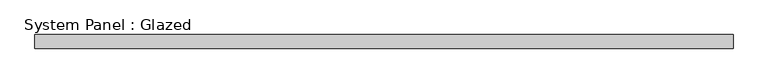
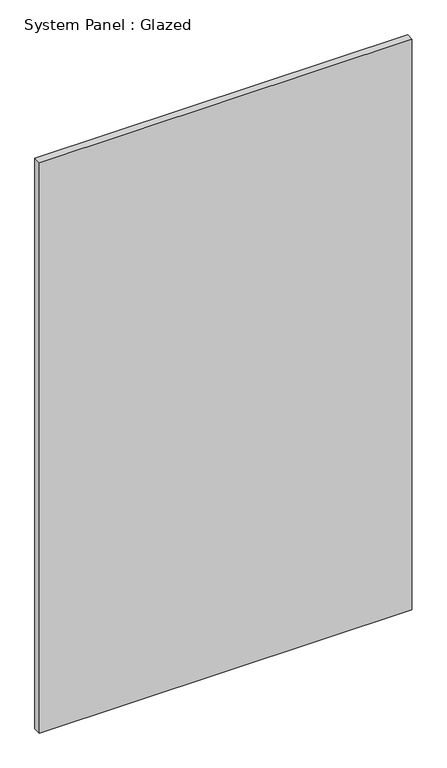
"""IFC4 building model written with IfcOpenShell, lengths in millimetres: plate geometry, System Panel : Glazed."""

from ifc_helpers import new_model, si_unit, origin, origin_with_axes, place, context, project, spatial, polyline, outline, extrude, source, transform, mapped, element, save


def system_panel_glazed_b20b1453(model_context):
    return source(origin(), model_context, "Body", "SweptSolid", [
        extrude(outline(polyline([(620.2777778, -49.5), (-620.2777778, -49.5), (-620.2777778, -24.5), (620.2777778, -24.5), (620.2777778, -49.5)])), origin_with_axes(), (0.0, 0.0, 1.0), 2008.0),
    ])


if __name__ == "__main__":
    model = new_model("IFC4")
    model_context = context("Model", 3, world=origin())
    ifc_project = project(units=[si_unit("LENGTHUNIT", "METRE", prefix="MILLI")], contexts=[model_context])
    site = spatial("IfcSite", under=ifc_project)
    building = spatial("IfcBuilding", under=site)
    placement = place(None, origin())
    system_panel_glazed_shape = system_panel_glazed_b20b1453(model_context)
    element("IfcPlate", 1, ObjectType="System Panel : Glazed", at=placement, inside=building, context=model_context, shape_type="MappedRepresentation", body=[
        mapped(system_panel_glazed_shape, transform((0.0, 0.0, 0.0), x_axis=(1.0, 0.0, 0.0), y_axis=(0.0, 1.0, 0.0), z_axis=(0.0, 0.0, 1.0))),
    ])
    save(model, "model.ifc")
